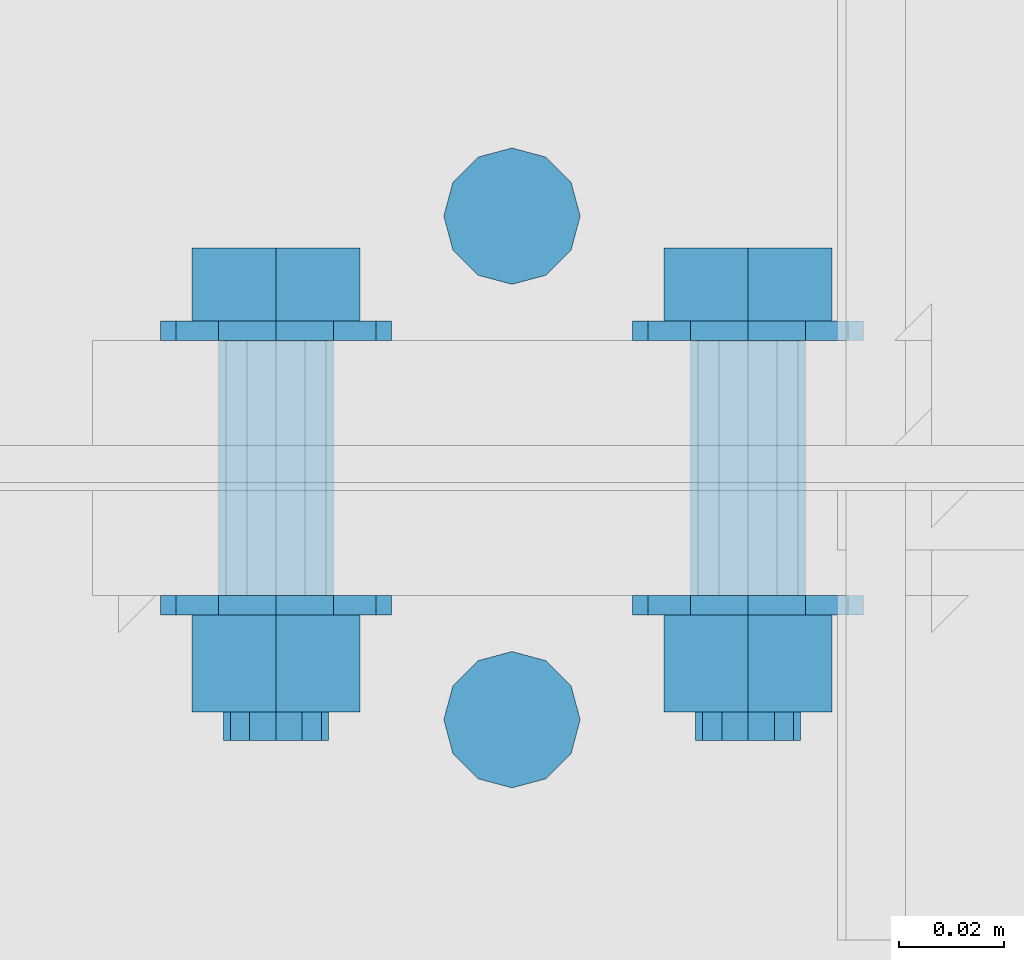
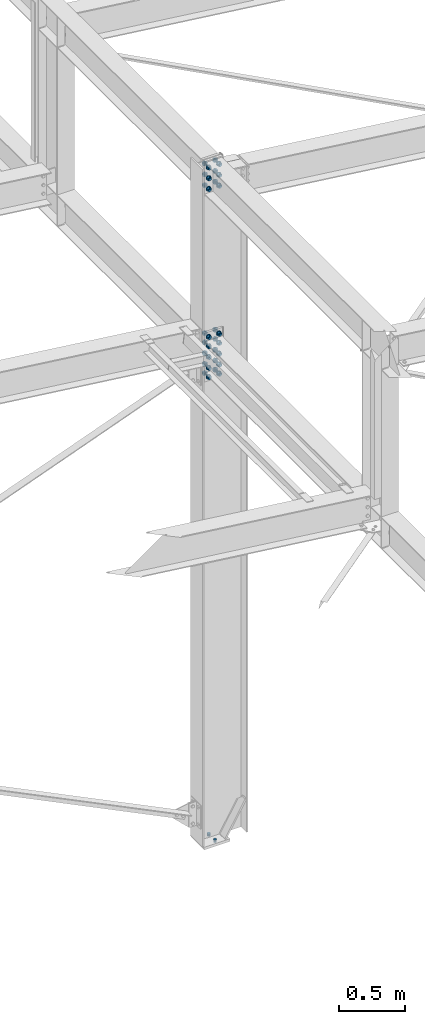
# One storey, part 131 of 3134: 3 mechanical fasteners, 3 elements without a shape of their own.
"""IFC2X3 building model written with IfcOpenShell, lengths in millimetres."""

from ifc_helpers import new_model, si_unit, frame, origin_with_axes, place, context, subcontext, project, spatial, faceted_brep, source, transform, mapped, material, type_object, element, aggregate, save


model = new_model("IFC2X3")

# Units and contexts
model_context = context("Model", 3, precision=1e-05, world=origin_with_axes())
body_context = subcontext(model_context, "Body", "Model", "MODEL_VIEW")
ifc_project = project(units=[si_unit("LENGTHUNIT", "METRE", prefix="MILLI"), si_unit("AREAUNIT", "SQUARE_METRE"), si_unit("VOLUMEUNIT", "CUBIC_METRE"), si_unit("MASSUNIT", "GRAM", prefix="KILO"), si_unit("TIMEUNIT", "SECOND"), si_unit("PLANEANGLEUNIT", "RADIAN"), si_unit("SOLIDANGLEUNIT", "STERADIAN"), si_unit("THERMODYNAMICTEMPERATUREUNIT", "DEGREE_CELSIUS"), si_unit("LUMINOUSINTENSITYUNIT", "LUMEN")], contexts=[model_context])

# Site, building, storey
site_placement = place(None, origin_with_axes())
site = spatial("IfcSite", under=ifc_project, at=site_placement, CompositionType="ELEMENT")
building_placement = place(site_placement, origin_with_axes())
building = spatial("IfcBuilding", under=site, at=building_placement, Name="Undefined", CompositionType="ELEMENT")
storey_placement = place(building_placement, origin_with_axes())
storey = spatial("IfcBuildingStorey", under=building, at=storey_placement, Name="Undefined", CompositionType="ELEMENT", Elevation=0.0)

# Assembly, mechanical fastener
assembly_1_placement = place(storey_placement, origin_with_axes())
assembly_1 = element("IfcElementAssembly", 1, at=assembly_1_placement, inside=storey, Name="300", AssemblyPlace="NOTDEFINED", PredefinedType="RIGID_FRAME")
ifc_material_1 = material(Name="HR10.9")
mechanical_fastener_type = type_object("IfcMechanicalFastenerType", Name="Bolt assembly")
shared_shape_1 = source(origin_with_axes(), body_context, "Body", "Brep", [
    faceted_brep([(18.475208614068, -61.8999996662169, 0.0), (9.23760430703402, -61.8999996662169, 16.0), (-9.23760430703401, -61.8999996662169, 16.0), (-18.475208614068, -61.8999996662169, 2.2625605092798e-15), (-9.23760430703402, -61.8999996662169, -16.0), (9.237604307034, -61.8999996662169, -16.0), (9.237604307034, -48.0000000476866, -16.0), (-9.23760430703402, -48.0000000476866, -16.0), (-18.475208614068, -48.0000000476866, 2.2625605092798e-15), (-9.23760430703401, -48.0000000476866, 16.0), (9.23760430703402, -48.0000000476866, 16.0), (18.475208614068, -48.0000000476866, 0.0), (10.0, -48.0000000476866, 0.0), (8.66025403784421, -48.0000000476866, 5.0000000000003), (4.9999999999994, -48.0000000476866, 8.66025403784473), (-1.03633598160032e-12, -48.0000000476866, 10.0), (-5.00000000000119, -48.0000000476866, 8.6602540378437), (-8.66025403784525, -48.0000000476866, 4.99999999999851), (-10.0, -48.0000000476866, -2.07267196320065e-12), (-8.66025403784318, -48.0000000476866, -5.00000000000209), (-4.99999999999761, -48.0000000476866, -8.66025403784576), (3.09790571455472e-12, -48.0000000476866, -10.0), (5.00000000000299, -48.0000000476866, -8.66025403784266), (8.66025403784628, -48.0000000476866, -4.99999999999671), (8.66025403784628, 31.9999999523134, -4.99999999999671), (5.00000000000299, 31.9999999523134, -8.66025403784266), (3.09790571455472e-12, 31.9999999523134, -10.0), (-4.99999999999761, 31.9999999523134, -8.66025403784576), (-8.66025403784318, 31.9999999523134, -5.00000000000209), (-10.0, 31.9999999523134, -2.07267196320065e-12), (-8.66025403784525, 31.9999999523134, 4.99999999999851), (-5.00000000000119, 31.9999999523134, 8.6602540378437), (-1.03633598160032e-12, 31.9999999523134, 10.0), (4.9999999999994, 31.9999999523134, 8.66025403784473), (8.66025403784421, 31.9999999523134, 5.0000000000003), (10.0, 31.9999999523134, 0.0), (22.0, -48.0000000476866, 0.0), (19.0525588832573, -48.0000000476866, 11.0000000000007), (10.9999999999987, -48.0000000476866, 19.0525588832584), (-2.27993915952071e-12, -48.0000000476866, 22.0), (-11.0000000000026, -48.0000000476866, 19.0525588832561), (-19.0525588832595, -48.0000000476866, 10.9999999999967), (-22.0, -48.0000000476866, -4.55987831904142e-12), (-19.052558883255, -48.0000000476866, -11.0000000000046), (-10.9999999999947, -48.0000000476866, -19.0525588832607), (6.81539257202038e-12, -48.0000000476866, -22.0), (11.0000000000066, -48.0000000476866, -19.0525588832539), (19.0525588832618, -48.0000000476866, -10.9999999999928), (19.0525588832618, -44.3000000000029, -10.9999999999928), (11.0000000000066, -44.3000000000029, -19.0525588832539), (6.81539257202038e-12, -44.3000000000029, -22.0), (-10.9999999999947, -44.3000000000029, -19.0525588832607), (-19.052558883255, -44.3000000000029, -11.0000000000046), (-22.0, -44.3000000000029, -4.55987831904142e-12), (-19.0525588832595, -44.3000000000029, 10.9999999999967), (-11.0000000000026, -44.3000000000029, 19.0525588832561), (-2.27993915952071e-12, -44.3000000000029, 22.0), (10.9999999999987, -44.3000000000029, 19.0525588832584), (19.0525588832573, -44.3000000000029, 11.0000000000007), (22.0, -44.3000000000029, 0.0), (22.0, 4.30000000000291, 0.0), (19.0525588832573, 4.30000000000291, 11.0000000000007), (10.9999999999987, 4.30000000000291, 19.0525588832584), (-2.27993915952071e-12, 4.30000000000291, 22.0), (-11.0000000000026, 4.30000000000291, 19.0525588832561), (-19.0525588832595, 4.30000000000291, 10.9999999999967), (-22.0, 4.30000000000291, -4.55987831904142e-12), (-19.052558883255, 4.30000000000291, -11.0000000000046), (-10.9999999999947, 4.30000000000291, -19.0525588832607), (6.81539257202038e-12, 4.30000000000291, -22.0), (11.0000000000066, 4.30000000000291, -19.0525588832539), (19.0525588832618, 4.30000000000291, -10.9999999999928), (19.0525588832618, 8.00000004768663, -10.9999999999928), (11.0000000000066, 8.00000004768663, -19.0525588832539), (6.81539257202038e-12, 8.00000004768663, -22.0), (-10.9999999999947, 8.00000004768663, -19.0525588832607), (-19.052558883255, 8.00000004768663, -11.0000000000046), (-22.0, 8.00000004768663, -4.55987831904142e-12), (-19.0525588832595, 8.00000004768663, 10.9999999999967), (-11.0000000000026, 8.00000004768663, 19.0525588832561), (-2.27993915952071e-12, 8.00000004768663, 22.0), (10.9999999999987, 8.00000004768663, 19.0525588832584), (19.0525588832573, 8.00000004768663, 11.0000000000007), (22.0, 8.00000004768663, 0.0), (18.475208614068, 8.00000004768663, 0.0), (9.23760430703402, 8.00000004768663, 16.0), (-9.23760430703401, 8.00000004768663, 16.0), (-18.475208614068, 8.00000004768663, 2.2625605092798e-15), (-9.23760430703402, 8.00000004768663, -16.0), (9.237604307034, 8.00000004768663, -16.0), (9.237604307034, 26.5499992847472, -16.0), (-9.23760430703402, 26.5499992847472, -16.0), (-18.475208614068, 26.5499992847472, 2.2625605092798e-15), (-9.23760430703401, 26.5499992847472, 16.0), (9.23760430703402, 26.5499992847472, 16.0), (18.475208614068, 26.5499992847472, 0.0)], [[[0, 1, 2, 3, 4, 5]], [[6, 7, 8, 9, 10, 11]], [[0, 11, 10, 1]], [[1, 10, 9, 2]], [[2, 9, 8, 3]], [[3, 8, 7, 4]], [[4, 7, 6, 5]], [[5, 6, 11, 0]], [[12, 13, 14, 15, 16, 17, 18, 19, 20, 21, 22, 23]], [[24, 25, 26, 27, 28, 29, 30, 31, 32, 33, 34, 35]], [[12, 35, 34, 13]], [[13, 34, 33, 14]], [[14, 33, 32, 15]], [[15, 32, 31, 16]], [[16, 31, 30, 17]], [[17, 30, 29, 18]], [[18, 29, 28, 19]], [[19, 28, 27, 20]], [[20, 27, 26, 21]], [[21, 26, 25, 22]], [[22, 25, 24, 23]], [[23, 24, 35, 12]], [[36, 37, 38, 39, 40, 41, 42, 43, 44, 45, 46, 47]], [[48, 49, 50, 51, 52, 53, 54, 55, 56, 57, 58, 59]], [[36, 59, 58, 37]], [[37, 58, 57, 38]], [[38, 57, 56, 39]], [[39, 56, 55, 40]], [[40, 55, 54, 41]], [[41, 54, 53, 42]], [[42, 53, 52, 43]], [[43, 52, 51, 44]], [[44, 51, 50, 45]], [[45, 50, 49, 46]], [[46, 49, 48, 47]], [[47, 48, 59, 36]], [[60, 61, 62, 63, 64, 65, 66, 67, 68, 69, 70, 71]], [[72, 73, 74, 75, 76, 77, 78, 79, 80, 81, 82, 83]], [[60, 83, 82, 61]], [[61, 82, 81, 62]], [[62, 81, 80, 63]], [[63, 80, 79, 64]], [[64, 79, 78, 65]], [[65, 78, 77, 66]], [[66, 77, 76, 67]], [[67, 76, 75, 68]], [[68, 75, 74, 69]], [[69, 74, 73, 70]], [[70, 73, 72, 71]], [[71, 72, 83, 60]], [[84, 85, 86, 87, 88, 89]], [[90, 91, 92, 93, 94, 95]], [[84, 95, 94, 85]], [[85, 94, 93, 86]], [[86, 93, 92, 87]], [[87, 92, 91, 88]], [[88, 91, 90, 89]], [[89, 90, 95, 84]]]),
    faceted_brep([(11.0, -24.3000001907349, 0.0), (9.52627944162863, -24.3000001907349, 5.50000000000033), (5.49999999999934, -24.3000001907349, 9.5262794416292), (-1.13996957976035e-12, -24.3000001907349, 11.0), (-5.50000000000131, -24.3000001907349, 9.52627944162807), (-9.52627944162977, -24.3000001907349, 5.49999999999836), (-11.0, -24.3000001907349, -2.27993915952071e-12), (-9.5262794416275, -24.3000001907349, -5.5000000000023), (-5.49999999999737, -24.3000001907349, -9.52627944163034), (3.40769628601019e-12, -24.3000001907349, -11.0), (5.50000000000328, -24.3000001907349, -9.52627944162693), (9.52627944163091, -24.3000001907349, -5.49999999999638), (9.52627944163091, -15.6999998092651, -5.49999999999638), (5.50000000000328, -15.6999998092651, -9.52627944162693), (3.40769628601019e-12, -15.6999998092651, -11.0), (-5.49999999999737, -15.6999998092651, -9.52627944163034), (-9.5262794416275, -15.6999998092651, -5.5000000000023), (-11.0, -15.6999998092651, -2.27993915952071e-12), (-9.52627944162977, -15.6999998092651, 5.49999999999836), (-5.50000000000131, -15.6999998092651, 9.52627944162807), (-1.13996957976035e-12, -15.6999998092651, 11.0), (5.49999999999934, -15.6999998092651, 9.5262794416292), (9.52627944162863, -15.6999998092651, 5.50000000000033), (11.0, -15.6999998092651, 0.0), (11.0, -44.2000000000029, 0.0), (9.52627944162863, -44.2000000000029, 5.50000000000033), (5.49999999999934, -44.2000000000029, 9.5262794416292), (-1.13996957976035e-12, -44.2000000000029, 11.0), (-5.50000000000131, -44.2000000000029, 9.52627944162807), (-9.52627944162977, -44.2000000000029, 5.49999999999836), (-11.0, -44.2000000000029, -2.27993915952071e-12), (-9.5262794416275, -44.2000000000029, -5.5000000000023), (-5.49999999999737, -44.2000000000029, -9.52627944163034), (3.40769628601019e-12, -44.2000000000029, -11.0), (5.50000000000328, -44.2000000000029, -9.52627944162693), (9.52627944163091, -44.2000000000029, -5.49999999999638), (9.52627944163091, -24.2000000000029, -5.49999999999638), (5.50000000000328, -24.2000000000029, -9.52627944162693), (3.40769628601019e-12, -24.2000000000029, -11.0), (-5.49999999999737, -24.2000000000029, -9.52627944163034), (-9.5262794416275, -24.2000000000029, -5.5000000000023), (-11.0, -24.2000000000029, -2.27993915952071e-12), (-9.52627944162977, -24.2000000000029, 5.49999999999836), (-5.50000000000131, -24.2000000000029, 9.52627944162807), (-1.13996957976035e-12, -24.2000000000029, 11.0), (5.49999999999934, -24.2000000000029, 9.5262794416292), (9.52627944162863, -24.2000000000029, 5.50000000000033), (11.0, -24.2000000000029, 0.0), (11.0, -15.7999999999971, 0.0), (9.52627944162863, -15.7999999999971, 5.50000000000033), (5.49999999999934, -15.7999999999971, 9.5262794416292), (-1.13996957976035e-12, -15.7999999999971, 11.0), (-5.50000000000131, -15.7999999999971, 9.52627944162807), (-9.52627944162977, -15.7999999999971, 5.49999999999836), (-11.0, -15.7999999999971, -2.27993915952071e-12), (-9.5262794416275, -15.7999999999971, -5.5000000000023), (-5.49999999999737, -15.7999999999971, -9.52627944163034), (3.40769628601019e-12, -15.7999999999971, -11.0), (5.50000000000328, -15.7999999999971, -9.52627944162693), (9.52627944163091, -15.7999999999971, -5.49999999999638), (9.52627944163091, 4.30000000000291, -5.49999999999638), (5.50000000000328, 4.30000000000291, -9.52627944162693), (3.40769628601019e-12, 4.30000000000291, -11.0), (-5.49999999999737, 4.30000000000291, -9.52627944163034), (-9.5262794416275, 4.30000000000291, -5.5000000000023), (-11.0, 4.30000000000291, -2.27993915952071e-12), (-9.52627944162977, 4.30000000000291, 5.49999999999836), (-5.50000000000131, 4.30000000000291, 9.52627944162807), (-1.13996957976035e-12, 4.30000000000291, 11.0), (5.49999999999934, 4.30000000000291, 9.5262794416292), (9.52627944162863, 4.30000000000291, 5.50000000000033), (11.0, 4.30000000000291, 0.0)], [[[0, 1, 2, 3, 4, 5, 6, 7, 8, 9, 10, 11]], [[12, 13, 14, 15, 16, 17, 18, 19, 20, 21, 22, 23]], [[0, 23, 22, 1]], [[1, 22, 21, 2]], [[2, 21, 20, 3]], [[3, 20, 19, 4]], [[4, 19, 18, 5]], [[5, 18, 17, 6]], [[6, 17, 16, 7]], [[7, 16, 15, 8]], [[8, 15, 14, 9]], [[9, 14, 13, 10]], [[10, 13, 12, 11]], [[11, 12, 23, 0]], [[24, 25, 26, 27, 28, 29, 30, 31, 32, 33, 34, 35]], [[36, 37, 38, 39, 40, 41, 42, 43, 44, 45, 46, 47]], [[24, 47, 46, 25]], [[25, 46, 45, 26]], [[26, 45, 44, 27]], [[27, 44, 43, 28]], [[28, 43, 42, 29]], [[29, 42, 41, 30]], [[30, 41, 40, 31]], [[31, 40, 39, 32]], [[32, 39, 38, 33]], [[33, 38, 37, 34]], [[34, 37, 36, 35]], [[35, 36, 47, 24]], [[48, 49, 50, 51, 52, 53, 54, 55, 56, 57, 58, 59]], [[60, 61, 62, 63, 64, 65, 66, 67, 68, 69, 70, 71]], [[48, 71, 70, 49]], [[49, 70, 69, 50]], [[50, 69, 68, 51]], [[51, 68, 67, 52]], [[52, 67, 66, 53]], [[53, 66, 65, 54]], [[54, 65, 64, 55]], [[55, 64, 63, 56]], [[56, 63, 62, 57]], [[57, 62, 61, 58]], [[58, 61, 60, 59]], [[59, 60, 71, 48]]]),
])
mechanical_fastener_1_placement = place(assembly_1_placement, frame((55874.9999999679, 7630.0, 5841.5000000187), z_axis=(-1.0, 0.0, 0.0), x_axis=(0.0, 0.0, -1.0)))
mechanical_fastener_1 = element("IfcMechanicalFastener", 2, at=mechanical_fastener_1_placement, type_object=mechanical_fastener_type, material=ifc_material_1, Name="Bolt assembly", NominalDiameter=20.0, NominalLength=80.0, context=body_context, shape_type="MappedRepresentation", body=[
    mapped(shared_shape_1, transform((0.0, 0.0, -45.0))),
    mapped(shared_shape_1, transform((100.0, 0.0, -45.0))),
    mapped(shared_shape_1, transform((200.0, 0.0, -45.0))),
    mapped(shared_shape_1, transform((0.0, 0.0, 45.0))),
    mapped(shared_shape_1, transform((100.0, 0.0, 45.0))),
    mapped(shared_shape_1, transform((200.0, 0.0, 45.0))),
])
aggregate(assembly_1, [mechanical_fastener_1])

assembly_2_placement = place(storey_placement, origin_with_axes())
assembly_2 = element("IfcElementAssembly", 3, at=assembly_2_placement, inside=storey, Name="300", AssemblyPlace="NOTDEFINED", PredefinedType="RIGID_FRAME")
shared_shape_2 = source(origin_with_axes(), body_context, "Body", "Brep", [
    faceted_brep([(18.475208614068, -66.1999996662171, 0.0), (9.23760430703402, -66.1999996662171, 16.0), (-9.23760430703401, -66.1999996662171, 16.0), (-18.475208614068, -66.1999996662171, 2.2625605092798e-15), (-9.23760430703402, -66.1999996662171, -16.0), (9.237604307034, -66.1999996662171, -16.0), (9.237604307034, -52.3000000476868, -16.0), (-9.23760430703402, -52.3000000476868, -16.0), (-18.475208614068, -52.3000000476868, 2.2625605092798e-15), (-9.23760430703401, -52.3000000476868, 16.0), (9.23760430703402, -52.3000000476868, 16.0), (18.475208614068, -52.3000000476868, 0.0), (10.0, -52.3000000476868, 0.0), (8.66025403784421, -52.3000000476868, 5.0000000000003), (4.9999999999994, -52.3000000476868, 8.66025403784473), (-1.03633598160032e-12, -52.3000000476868, 10.0), (-5.00000000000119, -52.3000000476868, 8.6602540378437), (-8.66025403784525, -52.3000000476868, 4.99999999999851), (-10.0, -52.3000000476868, -2.07267196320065e-12), (-8.66025403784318, -52.3000000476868, -5.00000000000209), (-4.99999999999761, -52.3000000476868, -8.66025403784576), (3.09790571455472e-12, -52.3000000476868, -10.0), (5.00000000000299, -52.3000000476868, -8.66025403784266), (8.66025403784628, -52.3000000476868, -4.99999999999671), (8.66025403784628, 27.6999999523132, -4.99999999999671), (5.00000000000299, 27.6999999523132, -8.66025403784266), (3.09790571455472e-12, 27.6999999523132, -10.0), (-4.99999999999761, 27.6999999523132, -8.66025403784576), (-8.66025403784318, 27.6999999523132, -5.00000000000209), (-10.0, 27.6999999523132, -2.07267196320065e-12), (-8.66025403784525, 27.6999999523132, 4.99999999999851), (-5.00000000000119, 27.6999999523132, 8.6602540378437), (-1.03633598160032e-12, 27.6999999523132, 10.0), (4.9999999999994, 27.6999999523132, 8.66025403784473), (8.66025403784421, 27.6999999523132, 5.0000000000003), (10.0, 27.6999999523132, 0.0), (22.0, -52.3000000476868, 0.0), (19.0525588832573, -52.3000000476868, 11.0000000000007), (10.9999999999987, -52.3000000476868, 19.0525588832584), (-2.27993915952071e-12, -52.3000000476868, 22.0), (-11.0000000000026, -52.3000000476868, 19.0525588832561), (-19.0525588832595, -52.3000000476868, 10.9999999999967), (-22.0, -52.3000000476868, -4.55987831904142e-12), (-19.052558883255, -52.3000000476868, -11.0000000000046), (-10.9999999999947, -52.3000000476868, -19.0525588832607), (6.81539257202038e-12, -52.3000000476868, -22.0), (11.0000000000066, -52.3000000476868, -19.0525588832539), (19.0525588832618, -52.3000000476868, -10.9999999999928), (19.0525588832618, -48.6000000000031, -10.9999999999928), (11.0000000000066, -48.6000000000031, -19.0525588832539), (6.81539257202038e-12, -48.6000000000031, -22.0), (-10.9999999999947, -48.6000000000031, -19.0525588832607), (-19.052558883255, -48.6000000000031, -11.0000000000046), (-22.0, -48.6000000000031, -4.55987831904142e-12), (-19.0525588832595, -48.6000000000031, 10.9999999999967), (-11.0000000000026, -48.6000000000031, 19.0525588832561), (-2.27993915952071e-12, -48.6000000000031, 22.0), (10.9999999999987, -48.6000000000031, 19.0525588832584), (19.0525588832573, -48.6000000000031, 11.0000000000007), (22.0, -48.6000000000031, 0.0), (22.0, 0.0, 0.0), (19.0525588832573, 0.0, 11.0000000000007), (10.9999999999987, 0.0, 19.0525588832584), (-2.27993915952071e-12, 0.0, 22.0), (-11.0000000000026, 0.0, 19.0525588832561), (-19.0525588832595, 0.0, 10.9999999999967), (-22.0, 0.0, -4.55987831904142e-12), (-19.052558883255, 0.0, -11.0000000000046), (-10.9999999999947, 0.0, -19.0525588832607), (6.81539257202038e-12, 0.0, -22.0), (11.0000000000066, 0.0, -19.0525588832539), (19.0525588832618, 0.0, -10.9999999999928), (19.0525588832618, 3.70000004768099, -10.9999999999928), (11.0000000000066, 3.70000004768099, -19.0525588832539), (6.81539257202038e-12, 3.70000004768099, -22.0), (-10.9999999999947, 3.70000004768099, -19.0525588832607), (-19.052558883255, 3.70000004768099, -11.0000000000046), (-22.0, 3.70000004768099, -4.55987831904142e-12), (-19.0525588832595, 3.70000004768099, 10.9999999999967), (-11.0000000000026, 3.70000004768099, 19.0525588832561), (-2.27993915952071e-12, 3.70000004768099, 22.0), (10.9999999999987, 3.70000004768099, 19.0525588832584), (19.0525588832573, 3.70000004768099, 11.0000000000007), (22.0, 3.70000004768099, 0.0), (18.475208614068, 3.70000004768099, 0.0), (9.23760430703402, 3.70000004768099, 16.0), (-9.23760430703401, 3.70000004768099, 16.0), (-18.475208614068, 3.70000004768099, 2.2625605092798e-15), (-9.23760430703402, 3.70000004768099, -16.0), (9.237604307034, 3.70000004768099, -16.0), (9.237604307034, 22.2499992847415, -16.0), (-9.23760430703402, 22.2499992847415, -16.0), (-18.475208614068, 22.2499992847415, 2.2625605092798e-15), (-9.23760430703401, 22.2499992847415, 16.0), (9.23760430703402, 22.2499992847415, 16.0), (18.475208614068, 22.2499992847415, 0.0)], [[[0, 1, 2, 3, 4, 5]], [[6, 7, 8, 9, 10, 11]], [[0, 11, 10, 1]], [[1, 10, 9, 2]], [[2, 9, 8, 3]], [[3, 8, 7, 4]], [[4, 7, 6, 5]], [[5, 6, 11, 0]], [[12, 13, 14, 15, 16, 17, 18, 19, 20, 21, 22, 23]], [[24, 25, 26, 27, 28, 29, 30, 31, 32, 33, 34, 35]], [[12, 35, 34, 13]], [[13, 34, 33, 14]], [[14, 33, 32, 15]], [[15, 32, 31, 16]], [[16, 31, 30, 17]], [[17, 30, 29, 18]], [[18, 29, 28, 19]], [[19, 28, 27, 20]], [[20, 27, 26, 21]], [[21, 26, 25, 22]], [[22, 25, 24, 23]], [[23, 24, 35, 12]], [[36, 37, 38, 39, 40, 41, 42, 43, 44, 45, 46, 47]], [[48, 49, 50, 51, 52, 53, 54, 55, 56, 57, 58, 59]], [[36, 59, 58, 37]], [[37, 58, 57, 38]], [[38, 57, 56, 39]], [[39, 56, 55, 40]], [[40, 55, 54, 41]], [[41, 54, 53, 42]], [[42, 53, 52, 43]], [[43, 52, 51, 44]], [[44, 51, 50, 45]], [[45, 50, 49, 46]], [[46, 49, 48, 47]], [[47, 48, 59, 36]], [[60, 61, 62, 63, 64, 65, 66, 67, 68, 69, 70, 71]], [[72, 73, 74, 75, 76, 77, 78, 79, 80, 81, 82, 83]], [[60, 83, 82, 61]], [[61, 82, 81, 62]], [[62, 81, 80, 63]], [[63, 80, 79, 64]], [[64, 79, 78, 65]], [[65, 78, 77, 66]], [[66, 77, 76, 67]], [[67, 76, 75, 68]], [[68, 75, 74, 69]], [[69, 74, 73, 70]], [[70, 73, 72, 71]], [[71, 72, 83, 60]], [[84, 85, 86, 87, 88, 89]], [[90, 91, 92, 93, 94, 95]], [[84, 95, 94, 85]], [[85, 94, 93, 86]], [[86, 93, 92, 87]], [[87, 92, 91, 88]], [[88, 91, 90, 89]], [[89, 90, 95, 84]]]),
    faceted_brep([(11.0, -28.6000001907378, 0.0), (9.52627944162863, -28.6000001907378, 5.50000000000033), (5.49999999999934, -28.6000001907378, 9.5262794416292), (-1.13996957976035e-12, -28.6000001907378, 11.0), (-5.50000000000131, -28.6000001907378, 9.52627944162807), (-9.52627944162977, -28.6000001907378, 5.49999999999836), (-11.0, -28.6000001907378, -2.27993915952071e-12), (-9.5262794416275, -28.6000001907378, -5.5000000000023), (-5.49999999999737, -28.6000001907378, -9.52627944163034), (3.40769628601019e-12, -28.6000001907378, -11.0), (5.50000000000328, -28.6000001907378, -9.52627944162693), (9.52627944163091, -28.6000001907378, -5.49999999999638), (9.52627944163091, -20.0, -5.49999999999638), (5.50000000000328, -20.0, -9.52627944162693), (3.40769628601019e-12, -20.0, -11.0), (-5.49999999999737, -20.0, -9.52627944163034), (-9.5262794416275, -20.0, -5.5000000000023), (-11.0, -20.0, -2.27993915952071e-12), (-9.52627944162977, -20.0, 5.49999999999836), (-5.50000000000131, -20.0, 9.52627944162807), (-1.13996957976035e-12, -20.0, 11.0), (5.49999999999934, -20.0, 9.5262794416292), (9.52627944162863, -20.0, 5.50000000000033), (11.0, -20.0, 0.0), (11.0, -20.1000000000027, 0.0), (9.52627944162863, -20.1000000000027, 5.50000000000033), (5.49999999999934, -20.1000000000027, 9.5262794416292), (-1.13996957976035e-12, -20.1000000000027, 11.0), (-5.50000000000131, -20.1000000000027, 9.52627944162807), (-9.52627944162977, -20.1000000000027, 5.49999999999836), (-11.0, -20.1000000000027, -2.27993915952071e-12), (-9.5262794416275, -20.1000000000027, -5.5000000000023), (-5.49999999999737, -20.1000000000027, -9.52627944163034), (3.40769628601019e-12, -20.1000000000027, -11.0), (5.50000000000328, -20.1000000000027, -9.52627944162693), (9.52627944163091, -20.1000000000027, -5.49999999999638), (9.52627944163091, 0.0, -5.49999999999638), (5.50000000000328, 0.0, -9.52627944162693), (3.40769628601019e-12, 0.0, -11.0), (-5.49999999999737, 0.0, -9.52627944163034), (-9.5262794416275, 0.0, -5.5000000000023), (-11.0, 0.0, -2.27993915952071e-12), (-9.52627944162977, 0.0, 5.49999999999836), (-5.50000000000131, 0.0, 9.52627944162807), (-1.13996957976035e-12, 0.0, 11.0), (5.49999999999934, 0.0, 9.5262794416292), (9.52627944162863, 0.0, 5.50000000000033), (11.0, 0.0, 0.0), (11.0, -48.5000000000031, 0.0), (9.52627944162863, -48.5000000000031, 5.50000000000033), (5.49999999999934, -48.5000000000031, 9.5262794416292), (-1.13996957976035e-12, -48.5000000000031, 11.0), (-5.50000000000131, -48.5000000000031, 9.52627944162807), (-9.52627944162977, -48.5000000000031, 5.49999999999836), (-11.0, -48.5000000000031, -2.27993915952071e-12), (-9.5262794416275, -48.5000000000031, -5.5000000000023), (-5.49999999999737, -48.5000000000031, -9.52627944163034), (3.40769628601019e-12, -48.5000000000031, -11.0), (5.50000000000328, -48.5000000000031, -9.52627944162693), (9.52627944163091, -48.5000000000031, -5.49999999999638), (9.52627944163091, -28.5000000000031, -5.49999999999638), (5.50000000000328, -28.5000000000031, -9.52627944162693), (3.40769628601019e-12, -28.5000000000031, -11.0), (-5.49999999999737, -28.5000000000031, -9.52627944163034), (-9.5262794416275, -28.5000000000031, -5.5000000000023), (-11.0, -28.5000000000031, -2.27993915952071e-12), (-9.52627944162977, -28.5000000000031, 5.49999999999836), (-5.50000000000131, -28.5000000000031, 9.52627944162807), (-1.13996957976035e-12, -28.5000000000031, 11.0), (5.49999999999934, -28.5000000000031, 9.5262794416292), (9.52627944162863, -28.5000000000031, 5.50000000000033), (11.0, -28.5000000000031, 0.0)], [[[0, 1, 2, 3, 4, 5, 6, 7, 8, 9, 10, 11]], [[12, 13, 14, 15, 16, 17, 18, 19, 20, 21, 22, 23]], [[0, 23, 22, 1]], [[1, 22, 21, 2]], [[2, 21, 20, 3]], [[3, 20, 19, 4]], [[4, 19, 18, 5]], [[5, 18, 17, 6]], [[6, 17, 16, 7]], [[7, 16, 15, 8]], [[8, 15, 14, 9]], [[9, 14, 13, 10]], [[10, 13, 12, 11]], [[11, 12, 23, 0]], [[24, 25, 26, 27, 28, 29, 30, 31, 32, 33, 34, 35]], [[36, 37, 38, 39, 40, 41, 42, 43, 44, 45, 46, 47]], [[24, 47, 46, 25]], [[25, 46, 45, 26]], [[26, 45, 44, 27]], [[27, 44, 43, 28]], [[28, 43, 42, 29]], [[29, 42, 41, 30]], [[30, 41, 40, 31]], [[31, 40, 39, 32]], [[32, 39, 38, 33]], [[33, 38, 37, 34]], [[34, 37, 36, 35]], [[35, 36, 47, 24]], [[48, 49, 50, 51, 52, 53, 54, 55, 56, 57, 58, 59]], [[60, 61, 62, 63, 64, 65, 66, 67, 68, 69, 70, 71]], [[48, 71, 70, 49]], [[49, 70, 69, 50]], [[50, 69, 68, 51]], [[51, 68, 67, 52]], [[52, 67, 66, 53]], [[53, 66, 65, 54]], [[54, 65, 64, 55]], [[55, 64, 63, 56]], [[56, 63, 62, 57]], [[57, 62, 61, 58]], [[58, 61, 60, 59]], [[59, 60, 71, 48]]]),
])
mechanical_fastener_2_placement = place(assembly_2_placement, frame((55874.9999999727, 7625.7, 4273.50000001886), z_axis=(-1.0, 0.0, 0.0), x_axis=(0.0, 0.0, -1.0)))
mechanical_fastener_2 = element("IfcMechanicalFastener", 4, at=mechanical_fastener_2_placement, type_object=mechanical_fastener_type, material=ifc_material_1, Name="Bolt assembly", NominalDiameter=20.0, NominalLength=80.0, context=body_context, shape_type="MappedRepresentation", body=[
    mapped(shared_shape_2, transform((0.0, 0.0, -45.0))),
    mapped(shared_shape_2, transform((85.0, 0.0, -45.0))),
    mapped(shared_shape_2, transform((185.0, 0.0, -45.0))),
    mapped(shared_shape_2, transform((285.0, 0.0, -45.0))),
    mapped(shared_shape_2, transform((370.0, 0.0, -45.0))),
    mapped(shared_shape_2, transform((0.0, 0.0, 45.0))),
    mapped(shared_shape_2, transform((85.0, 0.0, 45.0))),
    mapped(shared_shape_2, transform((185.0, 0.0, 45.0))),
    mapped(shared_shape_2, transform((285.0, 0.0, 45.0))),
    mapped(shared_shape_2, transform((370.0, 0.0, 45.0))),
])
aggregate(assembly_2, [mechanical_fastener_2])

assembly_3_placement = place(storey_placement, origin_with_axes())
assembly_3 = element("IfcElementAssembly", 5, at=assembly_3_placement, inside=storey, Name="IPE400", AssemblyPlace="NOTDEFINED", PredefinedType="RIGID_FRAME")
ifc_material_2 = material(Name="8.8")
shared_shape_3 = source(origin_with_axes(), body_context, "Body", "Brep", [
    faceted_brep([(13.0, -25.000000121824, 0.0), (11.2583302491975, -25.000000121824, 6.50000000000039), (6.49999999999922, -25.000000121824, 11.2583302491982), (-1.34723677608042e-12, -25.000000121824, 13.0), (-6.50000000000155, -25.000000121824, 11.2583302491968), (-11.2583302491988, -25.000000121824, 6.49999999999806), (-13.0, -25.000000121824, -2.69447355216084e-12), (-11.2583302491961, -25.000000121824, -6.50000000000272), (-6.4999999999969, -25.000000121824, -11.2583302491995), (4.02727742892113e-12, -25.000000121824, -13.0), (6.50000000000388, -25.000000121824, -11.2583302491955), (11.2583302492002, -25.000000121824, -6.49999999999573), (11.2583302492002, 0.100000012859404, -6.49999999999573), (6.50000000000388, 0.100000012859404, -11.2583302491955), (4.02727742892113e-12, 0.100000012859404, -13.0), (-6.4999999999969, 0.100000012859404, -11.2583302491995), (-11.2583302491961, 0.100000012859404, -6.50000000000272), (-13.0, 0.100000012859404, -2.69447355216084e-12), (-11.2583302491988, 0.100000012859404, 6.49999999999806), (-6.50000000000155, 0.100000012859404, 11.2583302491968), (-1.34723677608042e-12, 0.100000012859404, 13.0), (6.49999999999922, 0.100000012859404, 11.2583302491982), (11.2583302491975, 0.100000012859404, 6.50000000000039), (13.0, 0.100000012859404, 0.0)], [[[0, 1, 2, 3, 4, 5, 6, 7, 8, 9, 10, 11]], [[12, 13, 14, 15, 16, 17, 18, 19, 20, 21, 22, 23]], [[0, 23, 22, 1]], [[1, 22, 21, 2]], [[2, 21, 20, 3]], [[3, 20, 19, 4]], [[4, 19, 18, 5]], [[5, 18, 17, 6]], [[6, 17, 16, 7]], [[7, 16, 15, 8]], [[8, 15, 14, 9]], [[9, 14, 13, 10]], [[10, 13, 12, 11]], [[11, 12, 23, 0]]]),
])
mechanical_fastener_3_placement = place(assembly_3_placement, frame((56205.0, 7650.0, -375.0), z_axis=(0.0, 1.0, 0.0), x_axis=(-1.0, 0.0, 0.0)))
mechanical_fastener_3 = element("IfcMechanicalFastener", 6, at=mechanical_fastener_3_placement, type_object=mechanical_fastener_type, material=ifc_material_2, Name="Bolt assembly", NominalDiameter=24.0, NominalLength=25.0, context=body_context, shape_type="MappedRepresentation", body=[
    mapped(shared_shape_3, transform((330.0, 0.0, -48.0))),
    mapped(shared_shape_3, transform((330.0, 0.0, 48.0))),
])
aggregate(assembly_3, [mechanical_fastener_3])

save(model, "model.ifc")
